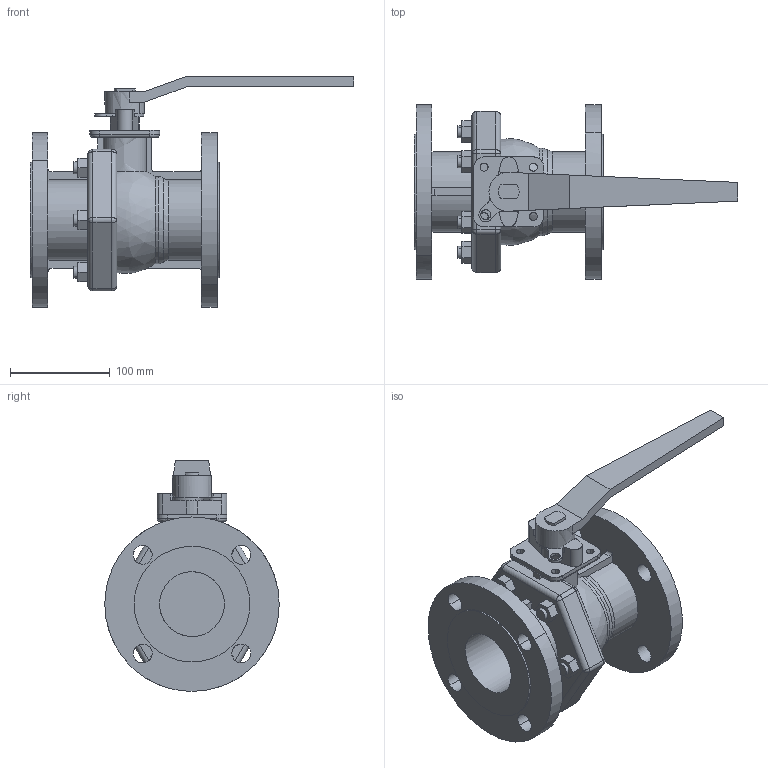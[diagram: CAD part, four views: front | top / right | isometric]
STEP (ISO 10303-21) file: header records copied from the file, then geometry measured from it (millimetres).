
FILE_DESCRIPTION((''),'2;1');
FILE_NAME('','2022-03-23T15:33:49',(''),(''),'','CADfix','');
FILE_SCHEMA(('AUTOMOTIVE_DESIGN { 1 0 10303 214 1 1 1 1 }'));
Length unit declared in the file: millimetre
Products named in the file (2): BLV-2SFJ 65A; BLV-2SF JIS 10K 65A_38
Assembly tree (1 placements, depth 2):
  BLV-2SF JIS 10K 65A_38
    BLV-2SFJ 65A
Bounding box: 325 x 175 x 231.5 mm (x, y, z)
Volume: 1735666.6 mm3; surface area: 251971.7 mm2
Topology: 1 solids, 1 shells, 243 faces, 824 edges, 600 vertices
Faces by surface type: bspline 243
Entity records: 12182 total; most frequent: CARTESIAN_POINT 6652, ORIENTED_EDGE 1648, EDGE_CURVE 824, STYLED_ITEM 704, VERTEX_POINT 600, B_SPLINE_CURVE_WITH_KNOTS 387, QUASI_UNIFORM_CURVE 368, EDGE_LOOP 290
